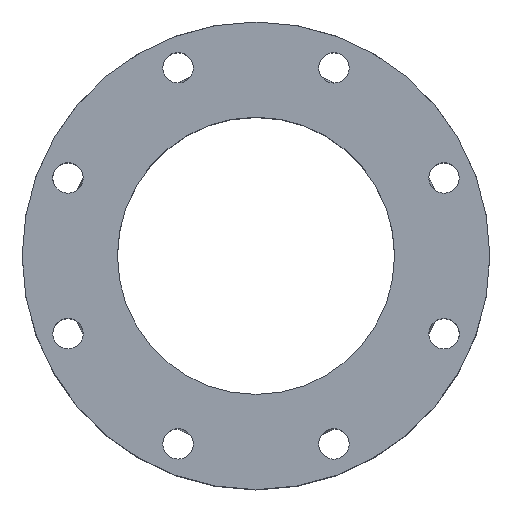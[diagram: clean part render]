
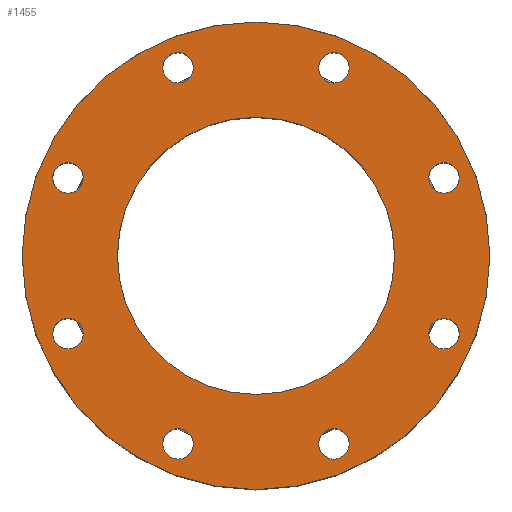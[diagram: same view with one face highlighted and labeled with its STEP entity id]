
A CAD part, top view. The second image highlights one B-rep face of the part: STEP entity #1455.
In plain terms, the highlighted planar face has unit normal (0, 0, 1).
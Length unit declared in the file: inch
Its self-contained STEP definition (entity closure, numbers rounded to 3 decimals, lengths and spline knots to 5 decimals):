
#40=FACE_BOUND('',#257,.T.);
#41=FACE_BOUND('',#258,.T.);
#42=FACE_BOUND('',#259,.T.);
#43=FACE_BOUND('',#260,.T.);
#44=FACE_BOUND('',#261,.T.);
#45=FACE_BOUND('',#262,.T.);
#46=FACE_BOUND('',#263,.T.);
#47=FACE_BOUND('',#264,.T.);
#48=FACE_BOUND('',#265,.T.);
#96=PLANE('',#1625);
#156=FACE_OUTER_BOUND('',#256,.T.);
#256=EDGE_LOOP('',(#1076));
#257=EDGE_LOOP('',(#1077));
#258=EDGE_LOOP('',(#1078));
#259=EDGE_LOOP('',(#1079));
#260=EDGE_LOOP('',(#1080));
#261=EDGE_LOOP('',(#1081));
#262=EDGE_LOOP('',(#1082));
#263=EDGE_LOOP('',(#1083));
#264=EDGE_LOOP('',(#1084));
#265=EDGE_LOOP('',(#1085));
#540=CIRCLE('',#1598,0.44);
#542=CIRCLE('',#1601,0.44);
#544=CIRCLE('',#1604,0.44);
#546=CIRCLE('',#1607,0.44);
#548=CIRCLE('',#1610,0.44);
#550=CIRCLE('',#1613,0.44);
#552=CIRCLE('',#1616,0.44);
#554=CIRCLE('',#1619,0.44);
#555=CIRCLE('',#1621,4.);
#557=CIRCLE('',#1624,6.75);
#648=VERTEX_POINT('',#2305);
#650=VERTEX_POINT('',#2311);
#652=VERTEX_POINT('',#2317);
#654=VERTEX_POINT('',#2323);
#656=VERTEX_POINT('',#2329);
#658=VERTEX_POINT('',#2335);
#660=VERTEX_POINT('',#2341);
#662=VERTEX_POINT('',#2347);
#663=VERTEX_POINT('',#2351);
#665=VERTEX_POINT('',#2357);
#793=EDGE_CURVE('',#648,#648,#540,.T.);
#796=EDGE_CURVE('',#650,#650,#542,.T.);
#799=EDGE_CURVE('',#652,#652,#544,.T.);
#802=EDGE_CURVE('',#654,#654,#546,.T.);
#805=EDGE_CURVE('',#656,#656,#548,.T.);
#808=EDGE_CURVE('',#658,#658,#550,.T.);
#811=EDGE_CURVE('',#660,#660,#552,.T.);
#814=EDGE_CURVE('',#662,#662,#554,.T.);
#815=EDGE_CURVE('',#663,#663,#555,.T.);
#819=EDGE_CURVE('',#665,#665,#557,.T.);
#1076=ORIENTED_EDGE('',*,*,#819,.F.);
#1077=ORIENTED_EDGE('',*,*,#793,.T.);
#1078=ORIENTED_EDGE('',*,*,#796,.T.);
#1079=ORIENTED_EDGE('',*,*,#799,.T.);
#1080=ORIENTED_EDGE('',*,*,#802,.T.);
#1081=ORIENTED_EDGE('',*,*,#805,.T.);
#1082=ORIENTED_EDGE('',*,*,#808,.T.);
#1083=ORIENTED_EDGE('',*,*,#811,.T.);
#1084=ORIENTED_EDGE('',*,*,#814,.T.);
#1085=ORIENTED_EDGE('',*,*,#815,.T.);
#1455=ADVANCED_FACE('',(#156,#40,#41,#42,#43,#44,#45,#46,#47,#48),#96,.F.);
#1598=AXIS2_PLACEMENT_3D('',#2307,#1882,#1883);
#1601=AXIS2_PLACEMENT_3D('',#2313,#1889,#1890);
#1604=AXIS2_PLACEMENT_3D('',#2319,#1896,#1897);
#1607=AXIS2_PLACEMENT_3D('',#2325,#1903,#1904);
#1610=AXIS2_PLACEMENT_3D('',#2331,#1910,#1911);
#1613=AXIS2_PLACEMENT_3D('',#2337,#1917,#1918);
#1616=AXIS2_PLACEMENT_3D('',#2343,#1924,#1925);
#1619=AXIS2_PLACEMENT_3D('',#2349,#1931,#1932);
#1621=AXIS2_PLACEMENT_3D('',#2352,#1935,#1936);
#1624=AXIS2_PLACEMENT_3D('',#2359,#1943,#1944);
#1625=AXIS2_PLACEMENT_3D('',#2360,#1945,#1946);
#1882=DIRECTION('center_axis',(0.,0.,
-1.));
#1883=DIRECTION('ref_axis',(0.,-1.,0.));
#1889=DIRECTION('center_axis',(0.,0.,
-1.));
#1890=DIRECTION('ref_axis',(-0.707,-0.707,0.));
#1896=DIRECTION('center_axis',(0.,0.,
-1.));
#1897=DIRECTION('ref_axis',(-1.,0.,0.));
#1903=DIRECTION('center_axis',(0.,0.,
-1.));
#1904=DIRECTION('ref_axis',(-0.707,0.707,0.));
#1910=DIRECTION('center_axis',(0.,0.,
-1.));
#1911=DIRECTION('ref_axis',(0.,1.,0.));
#1917=DIRECTION('center_axis',(0.,0.,
-1.));
#1918=DIRECTION('ref_axis',(0.707,0.707,0.));
#1924=DIRECTION('center_axis',(0.,0.,
-1.));
#1925=DIRECTION('ref_axis',(0.707,-0.707,0.));
#1931=DIRECTION('center_axis',(0.,0.,
-1.));
#1932=DIRECTION('ref_axis',(1.,0.,0.));
#1935=DIRECTION('center_axis',(0.,0.,
-1.));
#1936=DIRECTION('ref_axis',(-1.,0.,0.));
#1943=DIRECTION('center_axis',(0.,0.,
-1.));
#1944=DIRECTION('ref_axis',(1.,0.,0.));
#1945=DIRECTION('center_axis',(0.,0.,
-1.));
#1946=DIRECTION('ref_axis',(1.,0.,0.));
#2305=CARTESIAN_POINT('',(-5.42779,2.68827,3.));
#2307=CARTESIAN_POINT('Origin',(-5.42779,2.24827,3.));
#2311=CARTESIAN_POINT('',(-1.93714,5.73892,3.));
#2313=CARTESIAN_POINT('Origin',(-2.24827,5.42779,3.));
#2317=CARTESIAN_POINT('',(2.68827,5.42779,3.));
#2319=CARTESIAN_POINT('Origin',(2.24827,5.42779,3.));
#2323=CARTESIAN_POINT('',(5.73892,1.93714,3.));
#2325=CARTESIAN_POINT('Origin',(5.42779,2.24827,3.));
#2329=CARTESIAN_POINT('',(5.42779,-2.68827,3.));
#2331=CARTESIAN_POINT('Origin',(5.42779,-2.24827,3.));
#2335=CARTESIAN_POINT('',(1.93714,-5.73892,3.));
#2337=CARTESIAN_POINT('Origin',(2.24827,-5.42779,3.));
#2341=CARTESIAN_POINT('',(-5.73892,-1.93714,3.));
#2343=CARTESIAN_POINT('Origin',(-5.42779,-2.24827,3.));
#2347=CARTESIAN_POINT('',(-2.68827,-5.42779,3.));
#2349=CARTESIAN_POINT('Origin',(-2.24827,-5.42779,3.));
#2351=CARTESIAN_POINT('',(4.,0.,3.));
#2352=CARTESIAN_POINT('Origin',(0.,0.,
3.));
#2357=CARTESIAN_POINT('',(-6.75,0.,3.));
#2359=CARTESIAN_POINT('Origin',(0.,0.,
3.));
#2360=CARTESIAN_POINT('Origin',(0.,0.,
3.));
